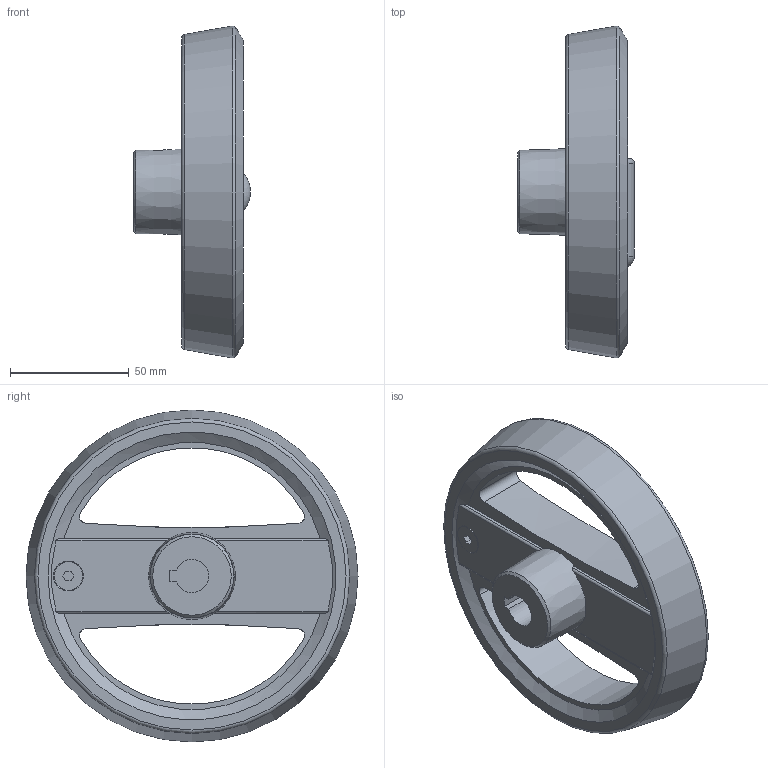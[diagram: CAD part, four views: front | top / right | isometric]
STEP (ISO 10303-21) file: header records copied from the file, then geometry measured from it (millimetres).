
FILE_DESCRIPTION( ( 'STEP AP203' ), '1' );
FILE_NAME( 'C:/Temp/Ganter_Step_05_03_2020/data/1_3/gn_924_3/gn_924_3_b/Handwheel with retractable handle GN 924.3-140-B14-R-SW (unactivated).stp', '2020-03-05T10:40:48', ( 'License CC BY-ND 4.0' ), ( 'CADENAS' ), ' ', 'PARTsolutions', ' ' );
FILE_SCHEMA( ( 'CONFIG_CONTROL_DESIGN' ) );
Length unit declared in the file: millimetre
Products named in the file (3): Handwheel with retractable handle GN 924.3-140-B14-R-SW (unactivated); _Umleggriff-Handrad GN 924.3-140-B14-R-SW-1; _Umleggriff-Handrad GN 924.3-140-B14-R-SW-2
Assembly tree (2 placements, depth 2):
  Handwheel with retractable handle GN 924.3-140-B14-R-SW (unactivated)
    _Umleggriff-Handrad GN 924.3-140-B14-R-SW-1
    _Umleggriff-Handrad GN 924.3-140-B14-R-SW-2
Bounding box: 49.2 x 139.68 x 139.68 mm (x, y, z)
Volume: 222709.6 mm3; surface area: 56390.9 mm2
Topology: 2 solids, 2 shells, 104 faces, 264 edges, 169 vertices
Faces by surface type: plane 49, cylinder 36, cone 10, torus 7, sphere 2
Full cylindrical faces by diameter (mm): 4 x4, 5 x1, 10 x1, 12 x1, 18.5 x1, 20 x1, 24 x1, 25 x1, 25.6 x1
Entity records: 3383 total; most frequent: CARTESIAN_POINT 930, DIRECTION 486, ORIENTED_EDGE 448, EDGE_CURVE 224, AXIS2_PLACEMENT_3D 193, VERTEX_POINT 162, EDGE_LOOP 147, FACE_OUTER_BOUND 123
